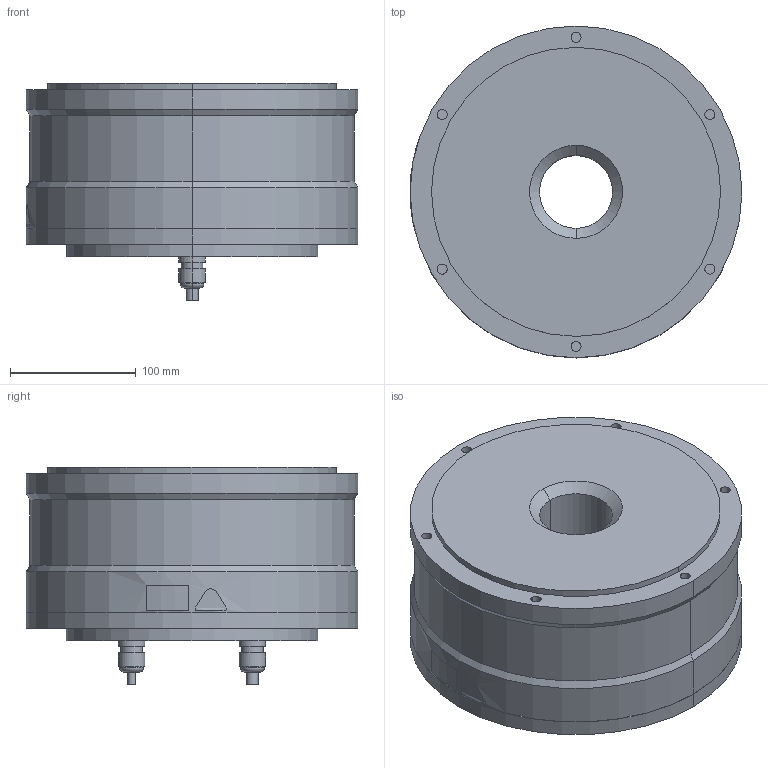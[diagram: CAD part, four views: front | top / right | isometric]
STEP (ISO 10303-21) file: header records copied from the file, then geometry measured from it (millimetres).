
FILE_DESCRIPTION (( 'STEP AP203' ), '1' );
FILE_NAME ('sgm7d_58f_c5_.STEP', '2016-02-22T07:57:30', ( '' ), ( '' ), 'SwSTEP 2.0', 'SolidWorks 2010', '' );
FILE_SCHEMA (( 'CONFIG_CONTROL_DESIGN' ));
Length unit declared in the file: millimetre
Products named in the file (1): sgm7d_58f_c5_
Bounding box: 264.08 x 264 x 172.8 mm (x, y, z)
Volume: 6728574.8 mm3; surface area: 255561.5 mm2
Topology: 1 solids, 1 shells, 224 faces, 476 edges, 310 vertices
Faces by surface type: cylinder 136, plane 73, cone 6, bspline 5, torus 4
Entity records: 6429 total; most frequent: CARTESIAN_POINT 1250, DIRECTION 1200, ORIENTED_EDGE 952, AXIS2_PLACEMENT_3D 520, EDGE_CURVE 476, VERTEX_POINT 310, CIRCLE 300, EDGE_LOOP 282
